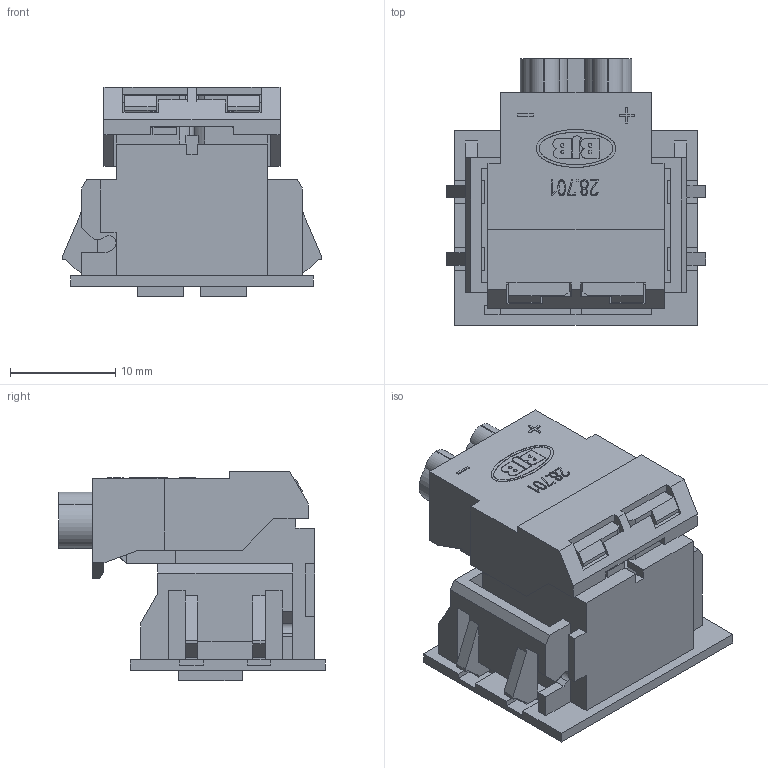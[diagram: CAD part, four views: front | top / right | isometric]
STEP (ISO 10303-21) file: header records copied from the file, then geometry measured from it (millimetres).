
FILE_DESCRIPTION((' '),'1');
FILE_NAME('01VYS00Y04.stp','2015-03-16 T08:08:54',(''),(''),'STEP Interface 2013.192 by CT CoreTechnologie','3D_Evolution2013.192 by CT CoreTechnologie','');
FILE_SCHEMA(('AP203_CONFIGURATION_CONTROLLED_3D_DESIGN_OF_MECHANICAL_PARTS_AND_ASSEMBLIES_MIM_LF'));
Length unit declared in the file: millimetre
Products named in the file (1): 01VYS00Y04
Bounding box: 24.6 x 25.3 x 19.9 mm (x, y, z)
Volume: 3414 mm3; surface area: 6559.3 mm2
Topology: 2 solids, 2 shells, 562 faces, 1608 edges, 1064 vertices
Faces by surface type: plane 488, cylinder 52, bspline 22
Entity records: 23280 total; most frequent: CARTESIAN_POINT 4070, ORIENTED_EDGE 3216, DIRECTION 2760, EDGE_CURVE 1608, VECTOR 1460, LINE 1460, VERTEX_POINT 1064, AXIS2_PLACEMENT_3D 650
